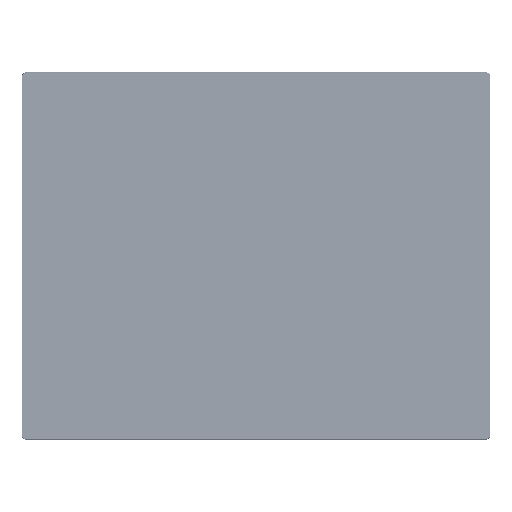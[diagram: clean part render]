
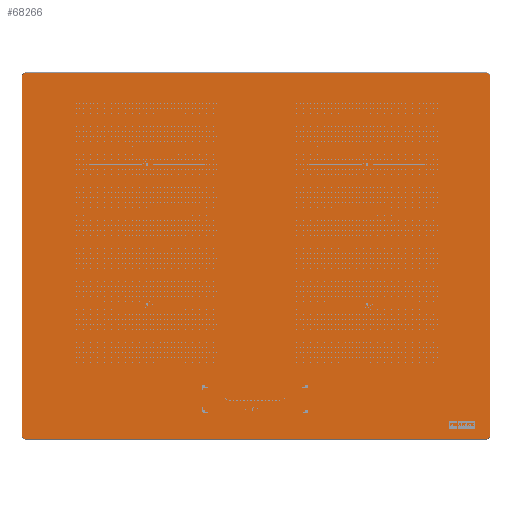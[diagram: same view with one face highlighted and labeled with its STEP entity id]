
A CAD part, top view. The second image highlights one B-rep face of the part: STEP entity #68266.
In plain terms, the highlighted planar face has unit normal (0, 0, 1) as drawn and (0, 1, 0) by its records, which use the part's own axes.
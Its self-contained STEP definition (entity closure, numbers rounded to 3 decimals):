
#21=TRIMMED_CURVE($,#184081,(#414585),(#414586),.T.,.CARTESIAN.);
#25=TRIMMED_CURVE($,#184085,(#414599),(#414600),.T.,.CARTESIAN.);
#29=TRIMMED_CURVE($,#184089,(#414613),(#414614),.T.,.CARTESIAN.);
#32=TRIMMED_CURVE($,#184092,(#414624),(#414625),.T.,.CARTESIAN.);
#2372=B_SPLINE_CURVE_WITH_KNOTS('',1,(#414573,#414574),.UNSPECIFIED.,.F.,
 .F.,(2,2),(-640.,0.),.UNSPECIFIED.);
#2373=B_SPLINE_CURVE_WITH_KNOTS('',1,(#414590,#414591),.UNSPECIFIED.,.F.,
 .F.,(2,2),(-500.,0.),.UNSPECIFIED.);
#2374=B_SPLINE_CURVE_WITH_KNOTS('',1,(#414604,#414605),.UNSPECIFIED.,.F.,
 .F.,(2,2),(-640.,0.),.UNSPECIFIED.);
#2375=B_SPLINE_CURVE_WITH_KNOTS('',1,(#414618,#414619),.UNSPECIFIED.,.F.,
 .F.,(2,2),(-500.,0.),.UNSPECIFIED.);
#68266=ADVANCED_FACE('',(#90780),#229345,.T.);
#90780=FACE_OUTER_BOUND('',#113336,.T.);
#113336=EDGE_LOOP('',(#138809,#138810,#138811,#138812,#138813,#138814,#138815,
#138816));
#138809=ORIENTED_EDGE('',*,*,#162382,.F.);
#138810=ORIENTED_EDGE('',*,*,#162400,.F.);
#138811=ORIENTED_EDGE('',*,*,#162398,.F.);
#138812=ORIENTED_EDGE('',*,*,#162396,.F.);
#138813=ORIENTED_EDGE('',*,*,#162393,.F.);
#138814=ORIENTED_EDGE('',*,*,#162391,.F.);
#138815=ORIENTED_EDGE('',*,*,#162388,.F.);
#138816=ORIENTED_EDGE('',*,*,#162386,.F.);
#162382=EDGE_CURVE('',#207038,#207037,#2372,.T.);
#162386=EDGE_CURVE('',#207037,#207039,#21,.T.);
#162388=EDGE_CURVE('',#207039,#207040,#2373,.T.);
#162391=EDGE_CURVE('',#207040,#207041,#25,.T.);
#162393=EDGE_CURVE('',#207041,#207042,#2374,.T.);
#162396=EDGE_CURVE('',#207042,#207043,#29,.T.);
#162398=EDGE_CURVE('',#207043,#207044,#2375,.T.);
#162400=EDGE_CURVE('',#207044,#207038,#32,.T.);
#184081=CIRCLE('',#273708,4.5);
#184085=CIRCLE('',#273712,4.5);
#184089=CIRCLE('',#273716,4.5);
#184092=CIRCLE('',#273719,4.5);
#207037=VERTEX_POINT('',#414554);
#207038=VERTEX_POINT('',#414555);
#207039=VERTEX_POINT('',#414556);
#207040=VERTEX_POINT('',#414557);
#207041=VERTEX_POINT('',#414558);
#207042=VERTEX_POINT('',#414559);
#207043=VERTEX_POINT('',#414560);
#207044=VERTEX_POINT('',#414561);
#229345=PLANE('',#273703);
#273703=AXIS2_PLACEMENT_3D('',#414545,#339584,$);
#273708=AXIS2_PLACEMENT_3D($,#414584,#339593,#339594);
#273712=AXIS2_PLACEMENT_3D($,#414598,#339601,#339602);
#273716=AXIS2_PLACEMENT_3D($,#414612,#339609,#339610);
#273719=AXIS2_PLACEMENT_3D($,#414623,#339615,#339616);
#339584=DIRECTION('',(0.,1.,0.));
#339593=DIRECTION('',(0.,-1.,0.));
#339594=DIRECTION('',(0.,0.,1.));
#339601=DIRECTION('',(0.,-1.,0.));
#339602=DIRECTION('',(-1.,0.,0.));
#339609=DIRECTION('',(0.,-1.,0.));
#339610=DIRECTION('',(0.,0.,-1.));
#339615=DIRECTION('',(0.,-1.,0.));
#339616=DIRECTION('',(1.,0.,0.));
#414545=CARTESIAN_POINT('',(-391.084,4.,307.084));
#414554=CARTESIAN_POINT('',(-320.,4.,254.5));
#414555=CARTESIAN_POINT('',(320.,4.,254.5));
#414556=CARTESIAN_POINT('',(-324.5,4.,250.));
#414557=CARTESIAN_POINT('',(-324.5,4.,-250.));
#414558=CARTESIAN_POINT('',(-320.,4.,-254.5));
#414559=CARTESIAN_POINT('',(320.,4.,-254.5));
#414560=CARTESIAN_POINT('',(324.5,4.,-250.));
#414561=CARTESIAN_POINT('',(324.5,4.,250.));
#414573=CARTESIAN_POINT('',(320.,4.,254.5));
#414574=CARTESIAN_POINT('',(-320.,4.,254.5));
#414584=CARTESIAN_POINT('',(-320.,4.,250.));
#414585=CARTESIAN_POINT('',(-320.,4.,254.5));
#414586=CARTESIAN_POINT('',(-324.5,4.,250.));
#414590=CARTESIAN_POINT('',(-324.5,4.,250.));
#414591=CARTESIAN_POINT('',(-324.5,4.,-250.));
#414598=CARTESIAN_POINT('',(-320.,4.,-250.));
#414599=CARTESIAN_POINT('',(-324.5,4.,-250.));
#414600=CARTESIAN_POINT('',(-320.,4.,-254.5));
#414604=CARTESIAN_POINT('',(-320.,4.,-254.5));
#414605=CARTESIAN_POINT('',(320.,4.,-254.5));
#414612=CARTESIAN_POINT('',(320.,4.,-250.));
#414613=CARTESIAN_POINT('',(320.,4.,-254.5));
#414614=CARTESIAN_POINT('',(324.5,4.,-250.));
#414618=CARTESIAN_POINT('',(324.5,4.,-250.));
#414619=CARTESIAN_POINT('',(324.5,4.,250.));
#414623=CARTESIAN_POINT('',(320.,4.,250.));
#414624=CARTESIAN_POINT('',(324.5,4.,250.));
#414625=CARTESIAN_POINT('',(320.,4.,254.5));
